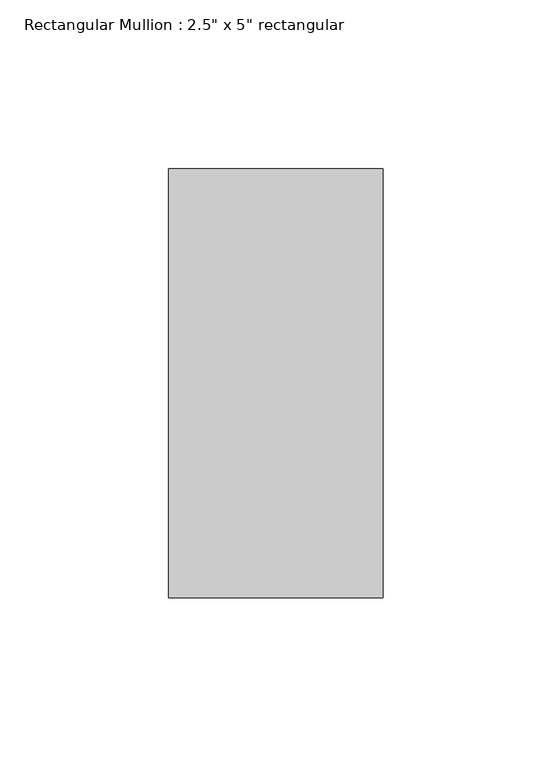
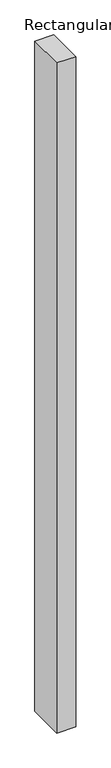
"""IFC4 building model written with IfcOpenShell, lengths in millimetres: member geometry."""

from ifc_helpers import new_model, si_unit, frame, origin, place, context, project, spatial, polyline, outline, extrude, source, transform, mapped, element, save


def member_65743db0(model_context):
    return source(origin(), model_context, "Body", "SweptSolid", [
        extrude(outline(polyline([(31.75, 63.5), (31.75, -63.5), (-31.75, -63.5), (-31.75, 63.5), (31.75, 63.5)])), frame((0.0, 0.0, -2376.7900328), z_axis=(0.0, 0.0, 1.0), x_axis=(1.0, 0.0, 0.0)), (0.0, 0.0, 1.0), 2376.7900328),
    ])


if __name__ == "__main__":
    model = new_model("IFC4")
    model_context = context("Model", 3, world=origin())
    ifc_project = project(units=[si_unit("LENGTHUNIT", "METRE", prefix="MILLI")], contexts=[model_context])
    site = spatial("IfcSite", under=ifc_project)
    building = spatial("IfcBuilding", under=site)
    placement = place(None, origin())
    member_shape = member_65743db0(model_context)
    element("IfcMember", 1, ObjectType="Rectangular Mullion : 2.5\" x 5\" rectangular", at=placement, inside=building, context=model_context, shape_type="MappedRepresentation", body=[
        mapped(member_shape, transform((0.0, 0.0, 0.0), x_axis=(1.0, 0.0, 0.0), y_axis=(0.0, 1.0, 0.0), z_axis=(0.0, 0.0, 1.0))),
    ])
    save(model, "model.ifc")
